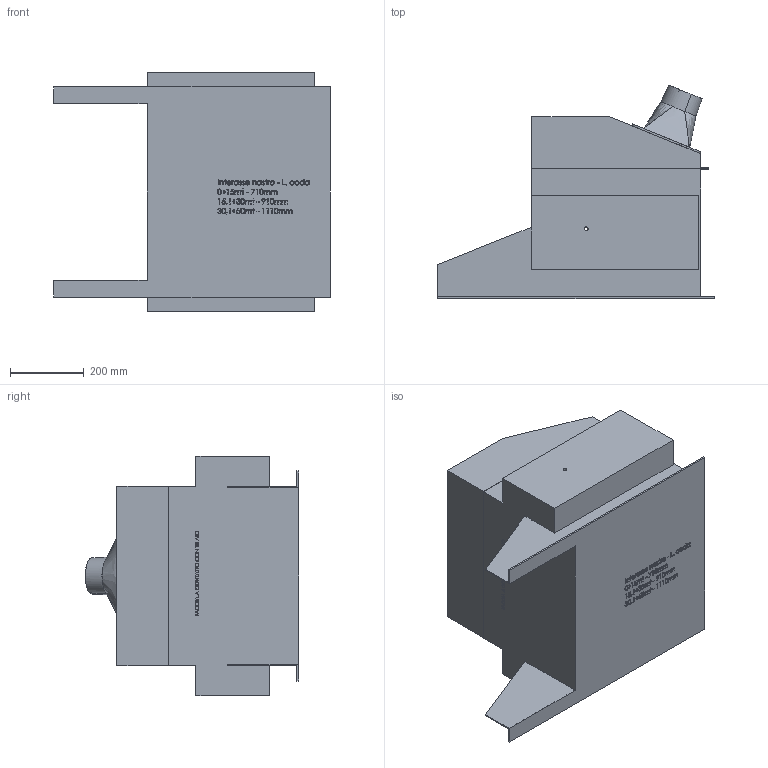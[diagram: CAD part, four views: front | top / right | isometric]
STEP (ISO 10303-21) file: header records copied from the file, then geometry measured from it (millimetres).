
FILE_DESCRIPTION (( 'STEP AP203' ), '1' );
FILE_NAME ('30759.step', '2019-03-14T14:32:13', ( 'PC' ), ( 'Hewlett-Packard Company' ), 'SwSTEP 2.0', 'SolidWorks 2016', '' );
FILE_SCHEMA (( 'CONFIG_CONTROL_DESIGN' ));
Products named in the file (1): 30759
Bounding box: 750 x 579.44 x 650 mm (x, y, z)
Volume: 120016230.3 mm3; surface area: 2611598.6 mm2
Topology: 3 solids, 3 shells, 1165 faces, 3095 edges, 2057 vertices
Faces by surface type: plane 700, bspline 443, cylinder 20, cone 2
Entity records: 64426 total; most frequent: CARTESIAN_POINT 38359, ORIENTED_EDGE 6186, DIRECTION 3689, EDGE_CURVE 3093, LINE 2163, VECTOR 2163, VERTEX_POINT 2057, EDGE_LOOP 1304
